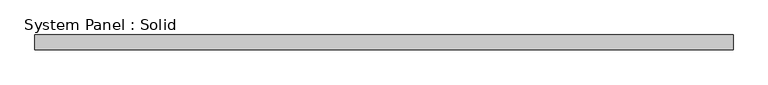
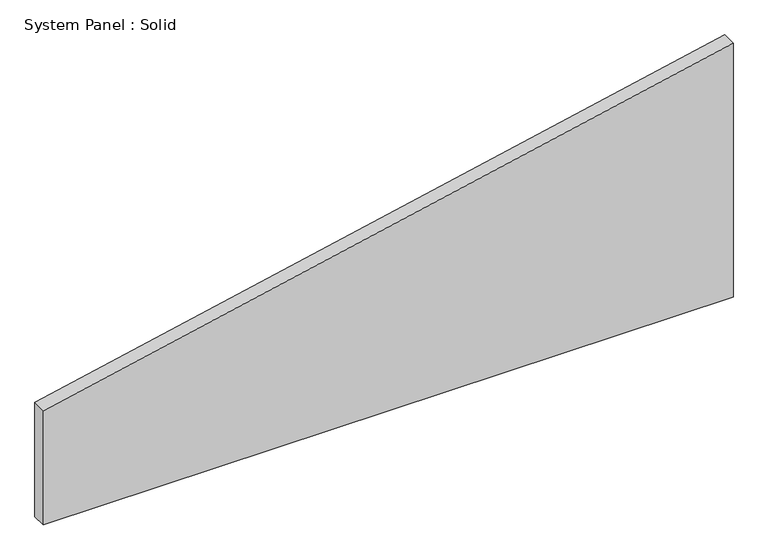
"""IFC4 building model written with IfcOpenShell, lengths in millimetres: plate geometry, System Panel : Solid."""

from ifc_helpers import new_model, si_unit, frame, origin, place, context, project, spatial, polyline, outline, extrude, source, transform, mapped, element, save


def system_panel_solid_c230f567(model_context):
    return source(origin(), model_context, "Body", "SweptSolid", [
        extrude(outline(polyline([(0.0, -1492.25), (0.0, 1492.25), (1160.6584873, 1492.25), (523.5078716, -1492.25), (0.0, -1492.25)])), frame((0.0, -19.05, 0.0), z_axis=(0.0, 1.0, 0.0), x_axis=(0.0, 0.0, 1.0)), (0.0, 0.0, 1.0), 63.5),
    ])


if __name__ == "__main__":
    model = new_model("IFC4")
    model_context = context("Model", 3, world=origin())
    ifc_project = project(units=[si_unit("LENGTHUNIT", "METRE", prefix="MILLI")], contexts=[model_context])
    site = spatial("IfcSite", under=ifc_project)
    building = spatial("IfcBuilding", under=site)
    placement = place(None, origin())
    system_panel_solid_shape = system_panel_solid_c230f567(model_context)
    element("IfcPlate", 1, ObjectType="System Panel : Solid", at=placement, inside=building, context=model_context, shape_type="MappedRepresentation", body=[
        mapped(system_panel_solid_shape, transform((0.0, 0.0, 0.0), x_axis=(1.0, 0.0, 0.0), y_axis=(0.0, 1.0, 0.0), z_axis=(0.0, 0.0, 1.0))),
    ])
    save(model, "model.ifc")
